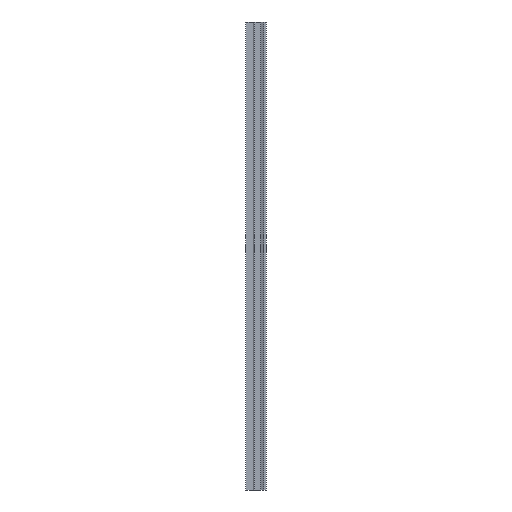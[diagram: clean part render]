
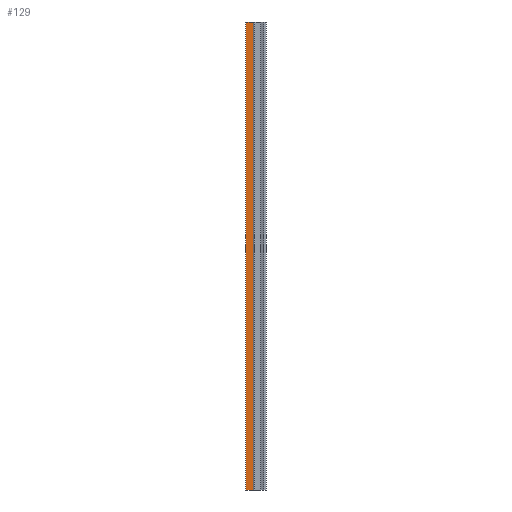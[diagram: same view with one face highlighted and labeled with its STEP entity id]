
A CAD part, left-side view. The second image highlights one B-rep face of the part: STEP entity #129.
In plain terms, the highlighted planar face has unit normal (-1, 0, 0).
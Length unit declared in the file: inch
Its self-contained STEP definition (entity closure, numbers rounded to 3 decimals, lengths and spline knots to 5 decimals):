
#31 = EDGE_CURVE ( 'NONE', #614, #787, #95, .T. ) ;
#36 = DIRECTION ( 'NONE',  ( 0., 0., -1. ) ) ;
#88 = FACE_OUTER_BOUND ( 'NONE', #539, .T. ) ;
#95 = LINE ( 'NONE', #424, #230 ) ;
#112 = CARTESIAN_POINT ( 'NONE',  ( -0.02, 2.27804, 78.74016 ) ) ;
#129 = ADVANCED_FACE ( 'NONE', ( #88 ), #467, .F. ) ;
#134 = VERTEX_POINT ( 'NONE', #688 ) ;
#217 = CARTESIAN_POINT ( 'NONE',  ( -0.02, 3.51439, 0. ) ) ;
#222 = VECTOR ( 'NONE', #325, 39.37008 ) ;
#230 = VECTOR ( 'NONE', #580, 39.37008 ) ;
#237 = EDGE_CURVE ( 'NONE', #338, #134, #738, .T. ) ;
#241 = DIRECTION ( 'NONE',  ( 0., 0., -1. ) ) ;
#242 = VECTOR ( 'NONE', #36, 39.37008 ) ;
#246 = EDGE_CURVE ( 'NONE', #134, #787, #649, .T. ) ;
#258 = CARTESIAN_POINT ( 'NONE',  ( -0.02, 3.51439, 78.74016 ) ) ;
#283 = CARTESIAN_POINT ( 'NONE',  ( -0.02, 2.25945, 78.74016 ) ) ;
#307 = ORIENTED_EDGE ( 'NONE', *, *, #551, .T. ) ;
#325 = DIRECTION ( 'NONE',  ( 0., -1., 0. ) ) ;
#338 = VERTEX_POINT ( 'NONE', #745 ) ;
#371 = ORIENTED_EDGE ( 'NONE', *, *, #31, .T. ) ;
#424 = CARTESIAN_POINT ( 'NONE',  ( -0.02, 2.25945, 0. ) ) ;
#443 = DIRECTION ( 'NONE',  ( 1., 0., 0. ) ) ;
#446 = CARTESIAN_POINT ( 'NONE',  ( -0.02, 2.27804, 0. ) ) ;
#467 = PLANE ( 'NONE',  #619 ) ;
#539 = EDGE_LOOP ( 'NONE', ( #371, #544, #743, #307 ) ) ;
#544 = ORIENTED_EDGE ( 'NONE', *, *, #246, .F. ) ;
#551 = EDGE_CURVE ( 'NONE', #338, #614, #575, .T. ) ;
#572 = CARTESIAN_POINT ( 'NONE',  ( -0.02, 2.25945, 78.74016 ) ) ;
#575 = LINE ( 'NONE', #258, #709 ) ;
#580 = DIRECTION ( 'NONE',  ( 0., -1., 0. ) ) ;
#602 = DIRECTION ( 'NONE',  ( 0., 0., -1. ) ) ;
#614 = VERTEX_POINT ( 'NONE', #217 ) ;
#619 = AXIS2_PLACEMENT_3D ( 'NONE', #283, #443, #602 ) ;
#649 = LINE ( 'NONE', #112, #242 ) ;
#688 = CARTESIAN_POINT ( 'NONE',  ( -0.02, 2.27804, 78.74016 ) ) ;
#709 = VECTOR ( 'NONE', #241, 39.37008 ) ;
#738 = LINE ( 'NONE', #572, #222 ) ;
#743 = ORIENTED_EDGE ( 'NONE', *, *, #237, .F. ) ;
#745 = CARTESIAN_POINT ( 'NONE',  ( -0.02, 3.51439, 78.74016 ) ) ;
#787 = VERTEX_POINT ( 'NONE', #446 ) ;
